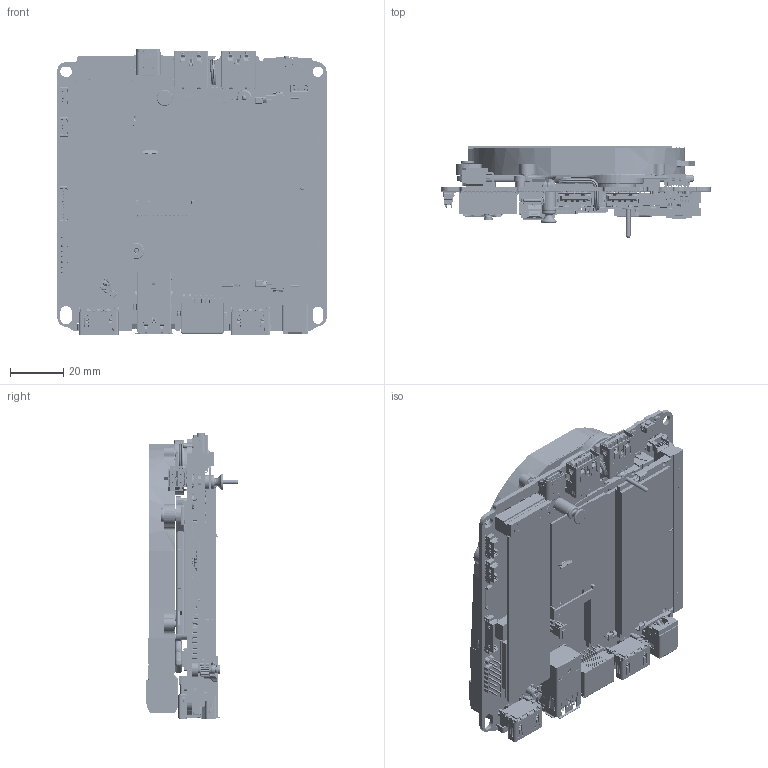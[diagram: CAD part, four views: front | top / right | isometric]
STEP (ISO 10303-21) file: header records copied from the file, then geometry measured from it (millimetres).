
FILE_DESCRIPTION((''),'2;1');
FILE_NAME('0_ASM_PCBA_15PRO_CR_NUC_ASM_1_ASM','2025-01-22T14:45:15',('FarmerHu'),(''),'CREO PARAMETRIC BY PTC INC, 2020354','CREO PARAMETRIC BY PTC INC, 2020354','');
FILE_SCHEMA(('AUTOMOTIVE_DESIGN { 1 0 10303 214 1 1 1 1 }'));
Products named in the file (60): PCB_OUTLINE_CR_NUC_1; M81707_R03_RPL_P_6P8E_1; 08-570-040300_UDE_1; IC_LAN_2P5G_I225_I226_INTEL_1; 10-084-024102_LOTES_1; 11-371-002227_SINGATRON_1; 11-367-012265_LUXSHARE-ICT_1; 10-084-013063_LOTES_1; 10-083-019792_FREEPORT_1_1; 10-083-019792_FREEPORT_1_2; 10-083-019792_FREEPORT_1_ASM; 10-084-009146_LOTES_1; 10-084-024101_LOTES_1; 11-251-004441_DAWNING_1; 03-105-021121_EVERLIGHT_1; 10-456-067117_LOTES_1; 10-456-067149_LOTES_1; CARD_M2_2280-D5-B-M_1; 22-270P202500_KANGYANG_1; M2_2280_NUC_CR_ASM_1_ASM; 10-456-067067_LOTES_1; 23-745P201455_NUT_PCIE_M2_1; 22-232-200352_GREATGOLD_1; NGFF_CARD_2230_X100_1; M2_2230_NUC_CR_ASM_1_ASM; CARD_M2_2242-D5-B-M_1; 23-620-000153_KANGYANG_1; M2_2242_NUC_CR_ASM_1_ASM; 11-025-262126_LOTES_1_1; 11-025-262126_LOTES_1_2; 11-025-262126_LOTES_1_ASM; CARD_DDR5_1; 11-025-262127_LOTES_1; DDR5_REV_CR_NUC_ASM_1_ASM; 23-745P201206_GREATGOLD_1; 10-361-002396_ACES_1; 11-127-008392_ACES_1; 10-361-004400_ACES_1; 10-331-010391_ACES_1; 10-361-009390_ACES_1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
Assembly tree (71 placements, depth 5):
  0_ASM_PCBA_15PRO_CR_NUC_ASM_1_ASM
    PCB_OUTLINE_CR_NUC_1
    M81707_R03_RPL_P_6P8E_1
    08-570-040300_UDE_1
    IC_LAN_2P5G_I225_I226_INTEL_1
    10-084-024102_LOTES_1  x2
    11-371-002227_SINGATRON_1
    11-367-012265_LUXSHARE-ICT_1
    10-084-013063_LOTES_1
    10-083-019792_FREEPORT_1_ASM  x2
      10-083-019792_FREEPORT_1_1
      10-083-019792_FREEPORT_1_2
    10-084-009146_LOTES_1  x2
    10-084-024101_LOTES_1
    11-251-004441_DAWNING_1
    03-105-021121_EVERLIGHT_1  x2
    M2_2280_NUC_CR_ASM_1_ASM
      10-456-067117_LOTES_1
      10-456-067149_LOTES_1
      CARD_M2_2280-D5-B-M_1
      22-270P202500_KANGYANG_1
    M2_2230_NUC_CR_ASM_1_ASM
      10-456-067067_LOTES_1
      23-745P201455_NUT_PCIE_M2_1
      22-232-200352_GREATGOLD_1
      NGFF_CARD_2230_X100_1
    M2_2242_NUC_CR_ASM_1_ASM
      10-456-067117_LOTES_1
      CARD_M2_2242-D5-B-M_1
      23-620-000153_KANGYANG_1
    DDR5_REV_CR_NUC_ASM_1_ASM
      11-025-262126_LOTES_1_ASM
        11-025-262126_LOTES_1_1
        11-025-262126_LOTES_1_2
      CARD_DDR5_1  x2
      11-025-262127_LOTES_1
    23-745P201206_GREATGOLD_1  x4
    10-361-002396_ACES_1
    11-127-008392_ACES_1
    10-361-004400_ACES_1  x4
    10-331-010391_ACES_1
    10-361-009390_ACES_1
    10-341-002832_LS_1
    10-342-012839_LS_1
    10-340-003822_LS_1_ASM
      10-340-003822_LS_1_1
      10-340-003822_LS_1_2
    10-611-002840_LS_1
    10-038-004330_JOINTTECH_1
    RTC_BATTERY_RV_NUC_1
    CABLE_RTC_CV_NUC_1
    RUBBER_THM_U15_CR_NUC_1
    WIFI_MYLAR_NUC_CRH_1
    RV_THM_H28_ASM_ASM
      RV_THM_H28_ASM_1_ASM
        RV_THM_H28_AURAS_20230810_1_ASM
          RV_THM_H28_AURAS_20230810_1_1
          RV_THM_H28_AURAS_20230810_1_2
        RV_FAN_H28_AURAS_20230810_1_ASM
          RV_FAN_H28_AURAS_20230810_1_1
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Bounding box: 101.6 x 34.77 x 107.6 mm (x, y, z)
Volume: 86119.8 mm3; surface area: 163294.8 mm2
Topology: 63 solids, 93 shells, 45115 faces, 129805 edges, 84678 vertices
Faces by surface type: plane 29775, cylinder 12663, torus 776, bspline 736, sphere 530, cone 415, extrusion 202, revolution 18
Entity records: 1575970 total; most frequent: CARTESIAN_POINT 298061, ORIENTED_EDGE 217236, DIRECTION 201965, EDGE_CURVE 108618, VECTOR 78923, LINE 78738, VERTEX_POINT 71147, AXIS2_PLACEMENT_3D 61512
